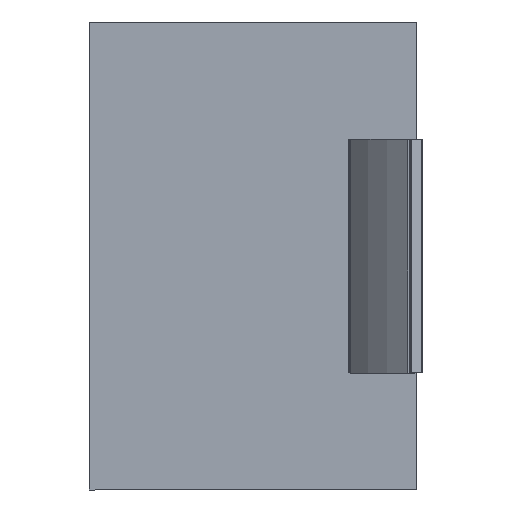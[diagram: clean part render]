
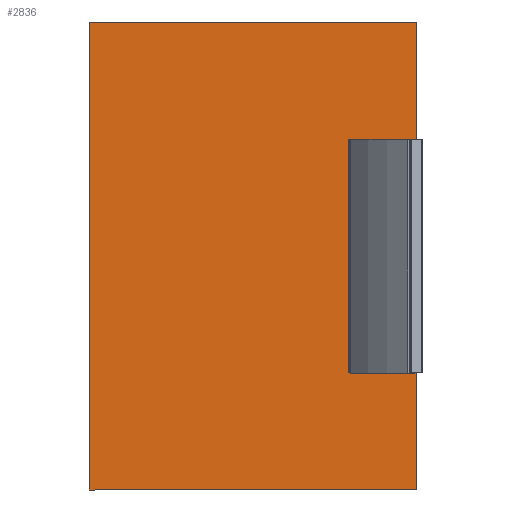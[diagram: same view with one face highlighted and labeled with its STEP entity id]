
A CAD part, left-side view. The second image highlights one B-rep face of the part: STEP entity #2836.
In plain terms, the highlighted planar face has unit normal (-1, 0, 0) as drawn and (0, -1, 0) by its records, which use the part's own axes.
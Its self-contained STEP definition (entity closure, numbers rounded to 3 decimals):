
#118=PLANE('',#3106);
#262=FACE_OUTER_BOUND('',#406,.T.);
#406=EDGE_LOOP('',(#2617,#2618,#2619,#2620));
#696=LINE('',#4773,#990);
#697=LINE('',#4776,#991);
#698=LINE('',#4778,#992);
#699=LINE('',#4779,#993);
#990=VECTOR('',#3925,100.);
#991=VECTOR('',#3928,70.);
#992=VECTOR('',#3929,70.);
#993=VECTOR('',#3930,100.);
#1388=VERTEX_POINT('',#4767);
#1390=VERTEX_POINT('',#4771);
#1391=VERTEX_POINT('',#4775);
#1392=VERTEX_POINT('',#4777);
#1800=EDGE_CURVE('',#1388,#1390,#696,.T.);
#1801=EDGE_CURVE('',#1388,#1391,#697,.T.);
#1802=EDGE_CURVE('',#1392,#1390,#698,.T.);
#1803=EDGE_CURVE('',#1391,#1392,#699,.T.);
#2617=ORIENTED_EDGE('',*,*,#1801,.F.);
#2618=ORIENTED_EDGE('',*,*,#1800,.T.);
#2619=ORIENTED_EDGE('',*,*,#1802,.F.);
#2620=ORIENTED_EDGE('',*,*,#1803,.F.);
#2836=ADVANCED_FACE('',(#262),#118,.T.);
#3106=AXIS2_PLACEMENT_3D('',#4774,#3926,#3927);
#3925=DIRECTION('',(0.,0.,1.));
#3926=DIRECTION('center_axis',(0.,-1.,0.));
#3927=DIRECTION('ref_axis',(1.,0.,0.));
#3928=DIRECTION('',(-1.,0.,0.));
#3929=DIRECTION('',(1.,0.,0.));
#3930=DIRECTION('',(0.,0.,1.));
#4767=CARTESIAN_POINT('',(40.692,-4.78,0.));
#4771=CARTESIAN_POINT('',(40.692,-4.78,100.));
#4773=CARTESIAN_POINT('',(40.692,-4.78,0.));
#4774=CARTESIAN_POINT('Origin',(-29.308,-4.78,0.));
#4775=CARTESIAN_POINT('',(-29.308,-4.78,0.));
#4776=CARTESIAN_POINT('',(40.692,-4.78,0.));
#4777=CARTESIAN_POINT('',(-29.308,-4.78,100.));
#4778=CARTESIAN_POINT('',(40.692,-4.78,100.));
#4779=CARTESIAN_POINT('',(-29.308,-4.78,0.));
